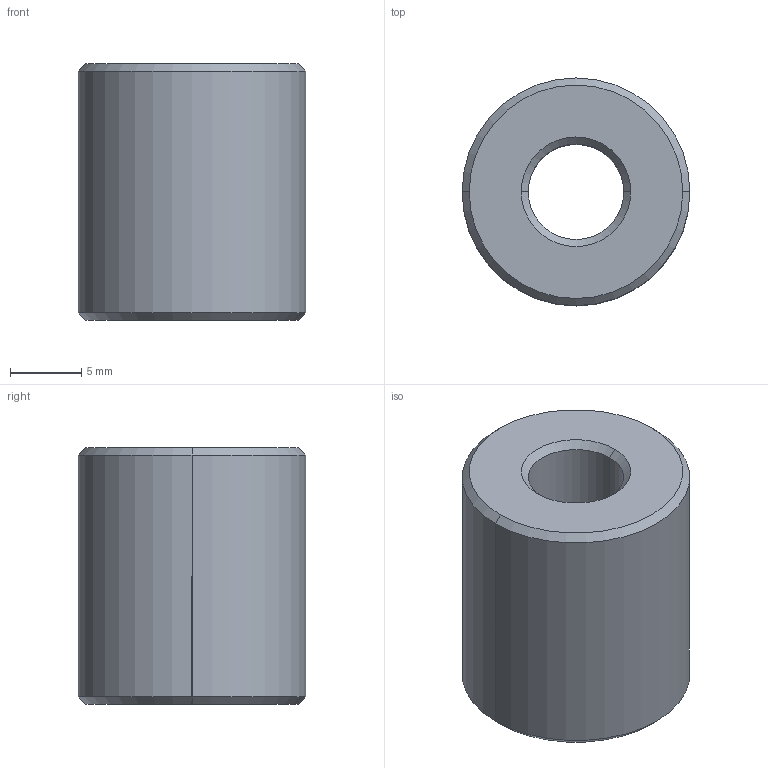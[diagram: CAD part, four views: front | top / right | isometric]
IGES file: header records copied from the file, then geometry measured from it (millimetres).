
Start section: 3D InterOp IGES (v. 2020 1.0.1), Spatial Corp. Copyright (c) 1999-2017.
Global section: file name: 951-3-g.igs; native system: Spatial Corp.; preprocessor: 3D InterOp ACIS/IGES; author: TraceParts; organization: TraceParts S.A.; date: 20231204.104850; units: millimetre
Bounding box: 16 x 16 x 18 mm (x, y, z)
Surface area: 1573.5 mm2 (no closed solid volume)
Topology: 0 solids, 0 shells, 14 faces, 56 edges, 56 vertices
Faces by surface type: revolution 12, extrusion 2
